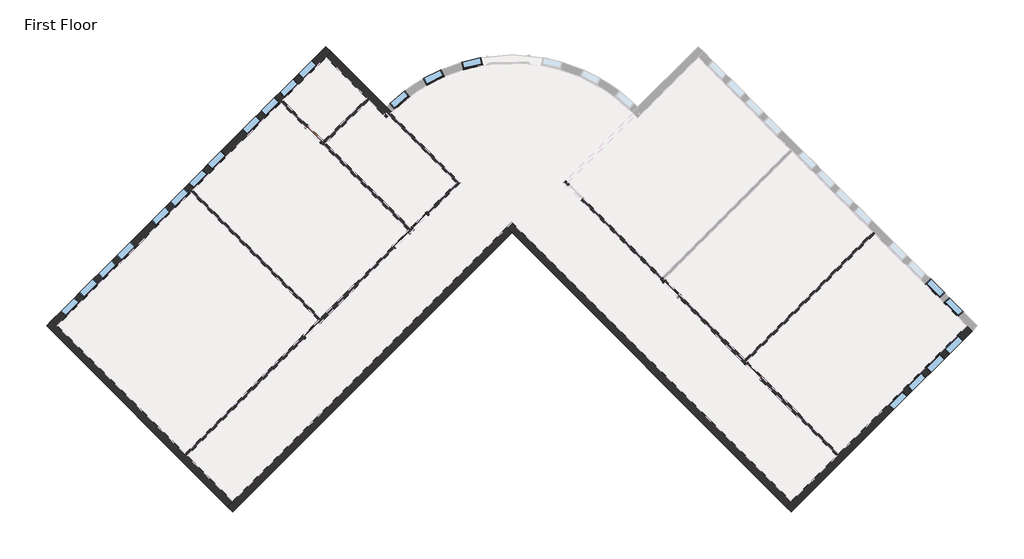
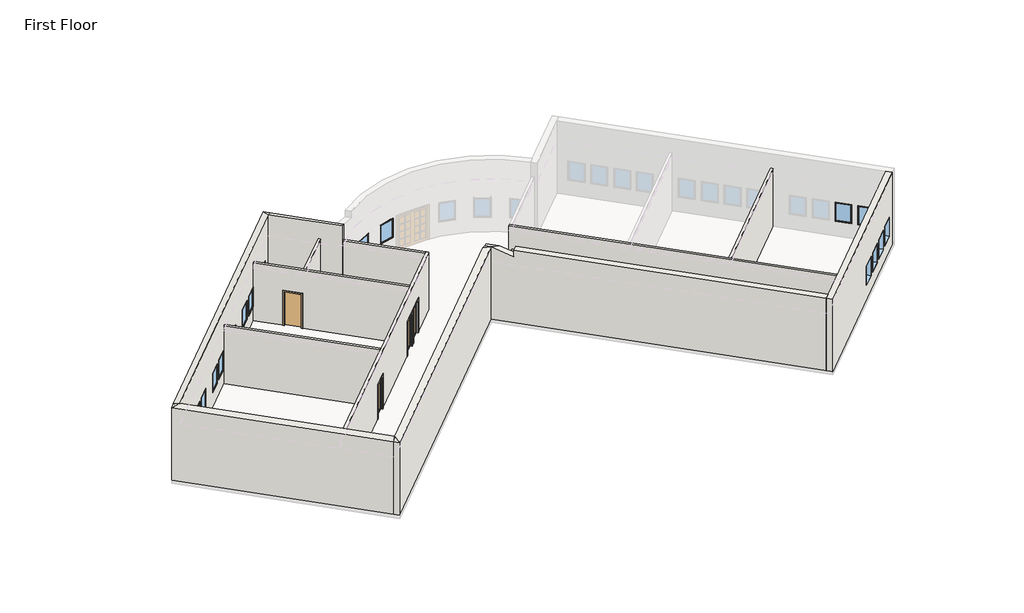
# One storey, part 1 of 2: 21 windows, 13 walls, 6 doors.
"""IFC4 building model written with IfcOpenShell, lengths in millimetres."""

from ifc_helpers import new_model, si_unit, point, frame, frame_2d, origin, origin_with_axes, place, context, project, spatial, polyline, circle_curve, ellipse_curve, trimmed, segment, composite_curve, outline, extrude, faceted_brep, transform, mapped, element, save
from ifc_brep_helpers import plane_surface, revolved_surface, advanced_brep
from components import m_single_flush_0915_x_2134mm_83e8e835, m_single_glass_1_0915_x_2134mm_fb3287b7, m_single_glass_1_0915_x_2134mm_4e5e1233, m_fixed_0915_x_1220mm_bde29121, m_fixed_0915_x_1220mm_2a2509e7

model = new_model("IFC4")

# Units and contexts
model_context = context("Model", 3, world=origin())
ifc_project = project(units=[si_unit("LENGTHUNIT", "METRE", prefix="MILLI")], contexts=[model_context])

# Site, building, storey
site = spatial("IfcSite", under=ifc_project)
building = spatial("IfcBuilding", under=site)
storey = spatial("IfcBuildingStorey", under=building, Name="First Floor", Elevation=0.0)

# Doors
placement = place(None, origin())
m_single_flush_0915_x_2134mm_shape = m_single_flush_0915_x_2134mm_83e8e835(model_context)
element("IfcDoor", 1, ObjectType="M_Single-Flush : 0915 x 2134mm", at=placement, inside=storey, context=model_context, shape_type="MappedRepresentation", body=[
    mapped(m_single_flush_0915_x_2134mm_shape, transform((-10762.6979297, 6563.7995594, 0.0), x_axis=(0.7071067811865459, -0.7071067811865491, 0.0), y_axis=(0.7071067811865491, 0.7071067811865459, 0.0), z_axis=(0.0, 0.0, 1.0))),
])
m_single_glass_1_0915_x_2134mm_shape = m_single_glass_1_0915_x_2134mm_fb3287b7(model_context)
element("IfcDoor", 2, ObjectType="M_Single-Glass 1 : 0915 x 2134mm", at=placement, inside=storey, context=model_context, shape_type="MappedRepresentation", body=[
    mapped(m_single_glass_1_0915_x_2134mm_shape, transform((-10885.2041795, -2483.8084826, 0.0), x_axis=(0.7071067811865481, 0.7071067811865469, 0.0), y_axis=(-0.7071067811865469, 0.7071067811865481, 0.0), z_axis=(0.0, 0.0, 1.0))),
])
element("IfcDoor", 3, ObjectType="M_Single-Glass 1 : 0915 x 2134mm", at=placement, inside=storey, context=model_context, shape_type="MappedRepresentation", body=[
    mapped(m_single_glass_1_0915_x_2134mm_shape, transform((-6731.4821701, 1669.9135268, 0.0), x_axis=(0.7071067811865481, 0.7071067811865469, 0.0), y_axis=(-0.7071067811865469, 0.7071067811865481, 0.0), z_axis=(0.0, 0.0, 1.0))),
])
m_single_glass_1_0915_x_2134mm_2_shape = m_single_glass_1_0915_x_2134mm_4e5e1233(model_context)
element("IfcDoor", 4, ObjectType="M_Single-Glass 1 : 0915 x 2134mm", at=placement, inside=storey, context=model_context, shape_type="MappedRepresentation", body=[
    mapped(m_single_glass_1_0915_x_2134mm_2_shape, transform((-5868.8118971, 2532.5837999, 0.0), x_axis=(-0.7071067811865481, -0.7071067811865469, 0.0), y_axis=(0.7071067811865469, -0.7071067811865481, 0.0), z_axis=(0.0, 0.0, 1.0))),
])
element("IfcDoor", 5, ObjectType="M_Single-Glass 1 : 0915 x 2134mm", at=placement, inside=storey, context=model_context, shape_type="MappedRepresentation", body=[
    mapped(m_single_glass_1_0915_x_2134mm_2_shape, transform((5790.8485946, -591.9442895, 0.0), x_axis=(-0.7071067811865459, 0.7071067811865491, 0.0), y_axis=(-0.7071067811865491, -0.7071067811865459, 0.0), z_axis=(0.0, 0.0, 1.0))),
])
element("IfcDoor", 6, ObjectType="M_Single-Glass 1 : 0915 x 2134mm", at=placement, inside=storey, context=model_context, shape_type="MappedRepresentation", body=[
    mapped(m_single_glass_1_0915_x_2134mm_2_shape, transform((9606.3967859, -4407.4924808, 0.0), x_axis=(-0.7071067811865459, 0.7071067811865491, 0.0), y_axis=(-0.7071067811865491, -0.7071067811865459, 0.0), z_axis=(0.0, 0.0, 1.0))),
])

# Walls
element("IfcWall", 7, ObjectType="Exterior - Brick on Mtl. Stud", at=placement, inside=storey, context=model_context, shape_type="Brep", body=[
    faceted_brep([(19456.3942478, -2315.870622, 0.0), (13534.5517321, -8237.7131378, 0.0), (13436.6174429, -8335.647427, 0.0), (11330.3231184, -10441.9417514, 0.0), (11082.835745, -10689.4291248, 0.0), (11082.835745, -10689.4291248, 4572.0), (11330.3231184, -10441.9417514, 4572.0), (19456.3942478, -2315.870622, 4572.0), (16455.7866219, -5316.478248, 915.0), (16455.7866219, -5316.478248, 2135.0), (15808.7839171, -5963.4809528, 2135.0), (15808.7839171, -5963.4809528, 915.0), (17317.7497881, -4454.5150817, 915.0), (17317.7497881, -4454.5150817, 2135.0), (16670.7470833, -5101.5177865, 2135.0), (16670.7470833, -5101.5177865, 915.0), (18179.7129544, -3592.5519155, 915.0), (18179.7129544, -3592.5519155, 2135.0), (17532.7102496, -4239.5546203, 2135.0), (17532.7102496, -4239.5546203, 915.0), (19041.6761207, -2730.5887492, 915.0), (19041.6761207, -2730.5887492, 2135.0), (18394.6734159, -3377.591454, 2135.0), (18394.6734159, -3377.591454, 915.0), (19703.8816212, -2563.3579955, 0.0), (19703.8816212, -2563.3579955, 4572.0), (11330.3231184, -10936.9164983, 4572.0), (11330.3231184, -10936.9164983, 0.0), (16703.2739953, -5563.9656214, 915.0), (16056.2712905, -6210.9683262, 915.0), (16056.2712905, -6210.9683262, 2135.0), (16703.2739953, -5563.9656214, 2135.0), (17565.2371615, -4702.0024552, 915.0), (16918.2344568, -5349.0051599, 915.0), (16918.2344568, -5349.0051599, 2135.0), (17565.2371615, -4702.0024552, 2135.0), (18427.2003278, -3840.0392889, 915.0), (17780.197623, -4487.0419937, 915.0), (17780.197623, -4487.0419937, 2135.0), (18427.2003278, -3840.0392889, 2135.0), (19289.1634941, -2978.0761226, 915.0), (18642.1607893, -3625.0788274, 915.0), (18642.1607893, -3625.0788274, 2135.0), (19289.1634941, -2978.0761226, 2135.0)], [[[0, 1, 2, 3, 4, 5, 6, 7], [8, 9, 10, 11], [12, 13, 14, 15], [16, 17, 18, 19], [20, 21, 22, 23]], [[24, 25, 26, 27], [28, 29, 30, 31], [32, 33, 34, 35], [36, 37, 38, 39], [40, 41, 42, 43]], [[4, 3, 2, 1, 0, 24, 27]], [[7, 6, 5, 26, 25]], [[0, 7, 25, 24]], [[5, 4, 27, 26]], [[9, 8, 28, 31]], [[10, 9, 31, 30]], [[11, 10, 30, 29]], [[8, 11, 29, 28]], [[13, 12, 32, 35]], [[14, 13, 35, 34]], [[15, 14, 34, 33]], [[12, 15, 33, 32]], [[17, 16, 36, 39]], [[18, 17, 39, 38]], [[19, 18, 38, 37]], [[16, 19, 37, 36]], [[21, 20, 40, 43]], [[22, 21, 43, 42]], [[23, 22, 42, 41]], [[20, 23, 41, 40]]]),
])
element("IfcWall", 8, ObjectType="Exterior - Brick on Mtl. Stud", at=placement, inside=storey, context=model_context, shape_type="Brep", body=[
    faceted_brep([(11330.3231184, -10441.9417514, 0.0), (-1601.2456959, 2489.6270629, 0.0), (-1601.2456959, 2489.6270629, 4455.1632764), (-1106.2709491, 1994.6523161, 4455.1632764), (-491.0880494, 1379.4694164, 4164.7405634), (-491.0880494, 1379.4694164, 4572.0), (11330.3231184, -10441.9417514, 4572.0), (11082.835745, -10689.4291248, 0.0), (11082.835745, -10689.4291248, 4572.0), (-738.5754229, 1131.982043, 4572.0), (-738.5754229, 1131.982043, 4164.7405634), (-1601.2456959, 1994.6523161, 4572.0), (-1848.7330693, 2242.1396895, 4572.0), (-1848.7330693, 2242.1396895, 0.0), (-1601.2456959, 1994.6523161, 0.0)], [[[0, 1, 2, 3, 4, 5, 6]], [[7, 8, 9, 10, 11, 12, 13, 14]], [[1, 0, 7, 14, 13]], [[0, 6, 8, 7]], [[2, 1, 13, 12]], [[6, 5, 9, 8]], [[9, 5, 4, 10]], [[4, 3, 11, 10]], [[3, 2, 12, 11]]]),
])
element("IfcWall", 9, ObjectType="Exterior - Brick on Mtl. Stud", at=placement, inside=storey, context=model_context, shape_type="Brep", body=[
    faceted_brep([(-1848.7330693, 2242.1396895, 0.0), (-14532.8145102, -10441.9417514, 0.0), (-14780.3018837, -10689.4291248, 0.0), (-14780.3018837, -10689.4291248, 4572.0), (-14532.8145102, -10441.9417514, 4688.8367236), (-2096.2204427, 1994.6523161, 4688.8367236), (-1848.7330693, 2242.1396895, 4572.0), (-1601.2456959, 1994.6523161, 0.0), (-1601.2456959, 1994.6523161, 4572.0), (-14532.8145102, -10936.9164983, 4572.0), (-14532.8145102, -10936.9164983, 0.0)], [[[0, 1, 2, 3, 4, 5, 6]], [[7, 8, 9, 10]], [[2, 1, 0, 7, 10]], [[0, 6, 8, 7]], [[3, 2, 10, 9]], [[6, 5, 8]], [[5, 4, 9, 8]], [[4, 3, 9]]]),
])
element("IfcWall", 10, ObjectType="Exterior - Brick on Mtl. Stud", at=placement, inside=storey, context=model_context, shape_type="Brep", body=[
    faceted_brep([(-14532.8145102, -10441.9417514, 0.0), (-16639.1088347, -8335.647427, 0.0), (-16737.0431239, -8237.7131378, 0.0), (-22658.8856396, -2315.870622, 0.0), (-22906.3730131, -2068.3832486, 0.0), (-22906.3730131, -2068.3832486, 4572.0), (-22658.8856396, -2315.870622, 4688.8367236), (-14532.8145102, -10441.9417514, 4688.8367236), (-14780.3018837, -10689.4291248, 0.0), (-14780.3018837, -10689.4291248, 4572.0), (-23153.8603865, -2315.870622, 4572.0), (-23153.8603865, -2315.870622, 0.0)], [[[0, 1, 2, 3, 4, 5, 6, 7]], [[8, 9, 10, 11]], [[0, 7, 9, 8]], [[5, 4, 11, 10]], [[7, 6, 10, 9]], [[6, 5, 10]], [[4, 3, 2, 1, 0, 8, 11]]]),
])
element("IfcWall", 11, ObjectType="Exterior - Brick on Mtl. Stud", at=placement, inside=storey, context=model_context, shape_type="Brep", body=[
    faceted_brep([(-22658.8856396, -2315.870622, 0.0), (-16473.6458479, 3869.3691697, 0.0), (-16375.7115587, 3967.3034589, 0.0), (-12319.9238385, 8023.0911791, 0.0), (-12221.9895493, 8121.0254683, 0.0), (-10222.2915721, 10120.7234455, 0.0), (-9974.8041987, 10368.2108189, 0.0), (-9974.8041987, 10368.2108189, 4572.0), (-10222.2915721, 10120.7234455, 4688.8367236), (-22658.8856396, -2315.870622, 4688.8367236), (-21597.1648077, -1254.1497901, 915.0), (-22244.1675125, -1901.1524949, 915.0), (-22244.1675125, -1901.1524949, 2135.0), (-21597.1648077, -1254.1497901, 2135.0), (-20735.2016414, -392.1866238, 915.0), (-21382.2043462, -1039.1893286, 915.0), (-21382.2043462, -1039.1893286, 2135.0), (-20735.2016414, -392.1866238, 2135.0), (-19011.2753089, 1331.7397087, 915.0), (-19658.2780137, 684.7370039, 915.0), (-19658.2780137, 684.7370039, 2135.0), (-19011.2753089, 1331.7397087, 2135.0), (-19873.2384752, 469.7765424, 915.0), (-20520.2411799, -177.2261623, 915.0), (-20520.2411799, -177.2261623, 2135.0), (-19873.2384752, 469.7765424, 2135.0), (-13838.0820977, 6504.9329199, 915.0), (-13838.0820977, 6504.9329199, 2135.0), (-13191.0793929, 7151.9356247, 2135.0), (-13191.0793929, 7151.9356247, 915.0), (-12976.1189315, 7366.8960861, 915.0), (-12976.1189315, 7366.8960861, 2135.0), (-12329.1162267, 8013.8987909, 2135.0), (-12329.1162267, 8013.8987909, 915.0), (-12114.1557652, 8228.8592524, 915.0), (-12114.1557652, 8228.8592524, 2135.0), (-11467.1530604, 8875.8619572, 2135.0), (-11467.1530604, 8875.8619572, 915.0), (-11252.1925989, 9090.8224187, 915.0), (-11252.1925989, 9090.8224187, 2135.0), (-10605.1898941, 9737.8251235, 2135.0), (-10605.1898941, 9737.8251235, 915.0), (-14808.2326015, 5534.7824161, 915.0), (-15455.2353063, 4887.7797113, 915.0), (-15455.2353063, 4887.7797113, 2135.0), (-14808.2326015, 5534.7824161, 2135.0), (-15670.1957678, 4672.8192498, 915.0), (-16317.1984726, 4025.816545, 915.0), (-16317.1984726, 4025.816545, 2135.0), (-15670.1957678, 4672.8192498, 2135.0), (-16532.1589341, 3810.8560836, 915.0), (-17179.1616388, 3163.8533788, 915.0), (-17179.1616388, 3163.8533788, 2135.0), (-16532.1589341, 3810.8560836, 2135.0), (-17394.1221003, 2948.8929173, 915.0), (-18041.1248051, 2301.8902125, 915.0), (-18041.1248051, 2301.8902125, 2135.0), (-17394.1221003, 2948.8929173, 2135.0), (-22906.3730131, -2068.3832486, 0.0), (-22906.3730131, -2068.3832486, 4572.0), (-10222.2915721, 10615.6981923, 4572.0), (-10222.2915721, 10615.6981923, 0.0), (-21844.6521811, -1006.6624167, 915.0), (-21844.6521811, -1006.6624167, 2135.0), (-22491.6548859, -1653.6651215, 2135.0), (-22491.6548859, -1653.6651215, 915.0), (-20982.6890148, -144.6992504, 915.0), (-20982.6890148, -144.6992504, 2135.0), (-21629.6917196, -791.7019552, 2135.0), (-21629.6917196, -791.7019552, 915.0), (-19258.7626823, 1579.2270821, 915.0), (-19258.7626823, 1579.2270821, 2135.0), (-19905.7653871, 932.2243773, 2135.0), (-19905.7653871, 932.2243773, 915.0), (-20120.7258486, 717.2639159, 915.0), (-20120.7258486, 717.2639159, 2135.0), (-20767.7285534, 70.2612111, 2135.0), (-20767.7285534, 70.2612111, 915.0), (-14085.5694711, 6752.4202933, 915.0), (-13438.5667664, 7399.4229981, 915.0), (-13438.5667664, 7399.4229981, 2135.0), (-14085.5694711, 6752.4202933, 2135.0), (-13223.6063049, 7614.3834596, 915.0), (-12576.6036001, 8261.3861643, 915.0), (-12576.6036001, 8261.3861643, 2135.0), (-13223.6063049, 7614.3834596, 2135.0), (-12361.6431386, 8476.3466258, 915.0), (-11714.6404338, 9123.3493306, 915.0), (-11714.6404338, 9123.3493306, 2135.0), (-12361.6431386, 8476.3466258, 2135.0), (-11499.6799723, 9338.3097921, 915.0), (-10852.6772676, 9985.3124969, 915.0), (-10852.6772676, 9985.3124969, 2135.0), (-11499.6799723, 9338.3097921, 2135.0), (-15055.7199749, 5782.2697895, 915.0), (-15055.7199749, 5782.2697895, 2135.0), (-15702.7226797, 5135.2670847, 2135.0), (-15702.7226797, 5135.2670847, 915.0), (-15917.6831412, 4920.3066232, 915.0), (-15917.6831412, 4920.3066232, 2135.0), (-16564.685846, 4273.3039184, 2135.0), (-16564.685846, 4273.3039184, 915.0), (-16779.6463075, 4058.343457, 915.0), (-16779.6463075, 4058.343457, 2135.0), (-17426.6490123, 3411.3407522, 2135.0), (-17426.6490123, 3411.3407522, 915.0), (-17641.6094737, 3196.3802907, 915.0), (-17641.6094737, 3196.3802907, 2135.0), (-18288.6121785, 2549.3775859, 2135.0), (-18288.6121785, 2549.3775859, 915.0)], [[[0, 1, 2, 3, 4, 5, 6, 7, 8, 9], [10, 11, 12, 13], [14, 15, 16, 17], [18, 19, 20, 21], [22, 23, 24, 25], [26, 27, 28, 29], [30, 31, 32, 33], [34, 35, 36, 37], [38, 39, 40, 41], [42, 43, 44, 45], [46, 47, 48, 49], [50, 51, 52, 53], [54, 55, 56, 57]], [[58, 59, 60, 61], [62, 63, 64, 65], [66, 67, 68, 69], [70, 71, 72, 73], [74, 75, 76, 77], [78, 79, 80, 81], [82, 83, 84, 85], [86, 87, 88, 89], [90, 91, 92, 93], [94, 95, 96, 97], [98, 99, 100, 101], [102, 103, 104, 105], [106, 107, 108, 109]], [[0, 9, 59, 58]], [[7, 6, 61, 60]], [[63, 62, 10, 13]], [[64, 63, 13, 12]], [[65, 64, 12, 11]], [[62, 65, 11, 10]], [[67, 66, 14, 17]], [[68, 67, 17, 16]], [[69, 68, 16, 15]], [[66, 69, 15, 14]], [[71, 70, 18, 21]], [[72, 71, 21, 20]], [[73, 72, 20, 19]], [[70, 73, 19, 18]], [[75, 74, 22, 25]], [[76, 75, 25, 24]], [[77, 76, 24, 23]], [[74, 77, 23, 22]], [[27, 26, 78, 81]], [[28, 27, 81, 80]], [[29, 28, 80, 79]], [[26, 29, 79, 78]], [[31, 30, 82, 85]], [[32, 31, 85, 84]], [[33, 32, 84, 83]], [[30, 33, 83, 82]], [[35, 34, 86, 89]], [[36, 35, 89, 88]], [[37, 36, 88, 87]], [[34, 37, 87, 86]], [[39, 38, 90, 93]], [[40, 39, 93, 92]], [[41, 40, 92, 91]], [[38, 41, 91, 90]], [[95, 94, 42, 45]], [[96, 95, 45, 44]], [[97, 96, 44, 43]], [[94, 97, 43, 42]], [[99, 98, 46, 49]], [[100, 99, 49, 48]], [[101, 100, 48, 47]], [[98, 101, 47, 46]], [[103, 102, 50, 53]], [[104, 103, 53, 52]], [[105, 104, 52, 51]], [[102, 105, 51, 50]], [[107, 106, 54, 57]], [[108, 107, 57, 56]], [[109, 108, 56, 55]], [[106, 109, 55, 54]], [[9, 8, 60, 59]], [[8, 7, 60]], [[6, 5, 4, 3, 2, 1, 0, 58, 61]]]),
])
element("IfcWall", 12, ObjectType="Exterior - Brick on Mtl. Stud", at=placement, inside=storey, context=model_context, shape_type="AdvancedBrep", body=[
    advanced_brep(
    [(-10222.2915721, 10120.7234455, 0.0), (-8331.6648159, 8230.0966893, 0.0), (-8233.7305267, 8132.1624001, 0.0), (-7415.2355619, 7313.6674352, 0.0), (-7415.2355619, 7313.6674352, 4688.8367236), (-10222.2915721, 10120.7234455, 4688.8367236), (-9974.8041987, 10368.2108189, 0.0), (-9974.8041987, 10368.2108189, 4572.0), (-7420.7345051, 7814.1411252, 4572.0), (-7173.2471317, 7566.6537518, 4572.0), (-7173.2471317, 7566.6537518, 0.0), (-7420.7345051, 7814.1411252, 0.0), (-7312.3566207, 7423.9811885, 0.0), (-7216.038281, 7523.5314273, 0.0)],
    [
        (0, 1),
        (1, 2),
        (2, 3),
        (3, 4),
        (4, 5),
        (5, 0),
        (6, 7),
        (7, 8),
        (8, 9),
        (9, 10),
        (10, 11),
        (11, 6),
        (5, 7),
        (6, 0),
        (3, 12, circle_curve(frame((-1601.2456959, 1994.6523161, 0.0), z_axis=(0.0, 0.0, -1.0), x_axis=(1.0, 0.0, 0.0)), 7880.0)),
        (12, 13, circle_curve(frame((-1601.2456959, 1994.6523161, 0.0), z_axis=(0.0, 0.0, -1.0), x_axis=(1.0, 0.0, 0.0)), 7880.0)),
        (13, 10, circle_curve(frame((-1601.2456959, 1994.6523161, 0.0), z_axis=(0.0, 0.0, -1.0), x_axis=(1.0, 0.0, 0.0)), 7880.0)),
        (9, 4, ellipse_curve(frame((-1601.2456959, 1994.6523161, 4572.0), z_axis=(0.22390007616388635, 0.2239000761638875, 0.9485449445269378), x_axis=(0.6707225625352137, 0.6707225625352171, -0.3166425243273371)), 8307.4608594, 7880.0)),
    ],
    [
        plane_surface(frame((-10469.7789456, 10368.2108189, 0.0), z_axis=(-0.7071067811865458, -0.7071067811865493, 0.0), x_axis=(0.7071067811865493, -0.7071067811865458, 0.0))),
        plane_surface(frame((-10222.2915721, 10615.6981923, 0.0), z_axis=(0.7071067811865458, 0.7071067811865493, 0.0), x_axis=(-0.7071067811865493, 0.7071067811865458, 0.0))),
        plane_surface(frame((-22906.3730131, -2563.3579955, 0.0), z_axis=(-0.7071067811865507, 0.7071067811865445, 0.0), x_axis=(0.7071067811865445, 0.7071067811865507, 0.0))),
        revolved_surface(polyline([(6278.7543041, 1994.6523161, 0.0), (6278.7543041, 1994.6523161, 7202.495377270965)]), (-1601.2456959, 1994.6523161, 0.0), (0.0, 0.0, -1.0)),
        plane_surface(frame((124.0948502, 1994.6523161, 4164.7405634), z_axis=(0.22390007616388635, 0.2239000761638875, 0.9485449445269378), x_axis=(-0.7071067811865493, 0.7071067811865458, 0.0))),
        plane_surface(frame((-10098.5478854, 10491.9545056, 0.0), z_axis=(0.0, 0.0, -1.0000000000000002), x_axis=(-0.7071067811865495, 0.7071067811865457, 0.0))),
    ],
    [
        (0, [[1, 2, 3, 4, 5, 6]]),
        (1, [[7, 8, 9, 10, 11, 12]]),
        (2, [[-6, 13, -7, 14]]),
        (3, [[15, 16, 17, -10, 18, -4]]),
        (4, [[-5, -18, -9, -8, -13]]),
        (5, [[-3, -2, -1, -14, -12, -11, -17, -16, -15]]),
    ],
),
])
element("IfcWall", 13, ObjectType="Interior - 138mm Partition (1-hr)", at=placement, inside=storey, context=model_context, shape_type="Brep", body=[
    faceted_brep([(-6359.0136731, 1944.4477346, 0.0), (-6143.3461049, 2160.1153029, 0.0), (-6143.3461049, 2160.1153029, 2134.0), (-5496.3434001, 2807.1180077, 2134.0), (-5496.3434001, 2807.1180077, 0.0), (-3997.9841307, 4305.477277, 0.0), (-3997.9841307, 4305.477277, 3658.0), (-16639.1088347, -8335.647427, 3658.0), (-16639.1088347, -8335.647427, 0.0), (-11159.7383873, -2856.2769796, 0.0), (-11159.7383873, -2856.2769796, 2134.0), (-10512.7356825, -2209.2742748, 2134.0), (-10512.7356825, -2209.2742748, 0.0), (-7006.0163779, 1297.4450298, 0.0), (-7006.0163779, 1297.4450298, 2134.0), (-6359.0136731, 1944.4477346, 2134.0), (-6241.2803941, 2258.0495921, 2134.0), (-6241.2803941, 2258.0495921, 0.0), (-6300.1470336, 2199.1829525, 0.0), (-6398.0813228, 2101.2486633, 0.0), (-6456.9479623, 2042.3820238, 0.0), (-6456.9479623, 2042.3820238, 2134.0), (-7103.9506671, 1395.379319, 2134.0), (-7103.9506671, 1395.379319, 0.0), (-10453.869043, -1954.5390569, 0.0), (-10551.8033322, -2052.473346, 0.0), (-10610.6699717, -2111.3399856, 0.0), (-10610.6699717, -2111.3399856, 2134.0), (-11257.6726765, -2758.3426904, 2134.0), (-11257.6726765, -2758.3426904, 0.0), (-16737.0431239, -8237.7131378, 0.0), (-16737.0431239, -8237.7131378, 3658.0), (-10551.8033322, -2052.473346, 3658.0), (-10453.869043, -1954.5390569, 3658.0), (-6398.0813228, 2101.2486633, 3658.0), (-6300.1470336, 2199.1829525, 3658.0), (-4193.8527091, 4305.477277, 3658.0), (-4095.9184199, 4403.4115662, 3658.0), (-4095.9184199, 4403.4115662, 0.0), (-4193.8527091, 4305.477277, 0.0), (-5594.2776893, 2905.0522969, 0.0), (-5594.2776893, 2905.0522969, 2134.0)], [[[0, 1, 2, 3, 4, 5, 6, 7, 8, 9, 10, 11, 12, 13, 14, 15]], [[16, 17, 18, 19, 20, 21, 22, 23, 24, 25, 26, 27, 28, 29, 30, 31, 32, 33, 34, 35, 36, 37, 38, 39, 40, 41]], [[9, 8, 30, 29]], [[13, 12, 26, 25, 24, 23]], [[40, 39, 38, 5, 4]], [[20, 19, 18, 17, 1, 0]], [[7, 6, 37, 36, 35, 34, 33, 32, 31]], [[8, 7, 31, 30]], [[6, 5, 38, 37]], [[27, 26, 12, 11]], [[28, 27, 11, 10]], [[29, 28, 10, 9]], [[21, 20, 0, 15]], [[22, 21, 15, 14]], [[23, 22, 14, 13]], [[2, 1, 17, 16]], [[3, 2, 16, 41]], [[4, 3, 41, 40]]]),
])
element("IfcWall", 14, ObjectType="Interior - 138mm Partition (1-hr)", at=placement, inside=storey, context=model_context, shape_type="SweptSolid", body=[
    extrude(outline(composite_curve([segment(polyline([(-7216.038281, 7523.5314273), (-4095.9184199, 4403.4115662), (-4193.8527091, 4305.477277), (-7312.3566207, 7423.9811885)]), True, "CONTINUOUS"), segment(trimmed(circle_curve(frame_2d((-1601.2456959, 1994.6523161)), 7880.0), [point((-7312.3566207, 7423.9811885))], [point((-7216.038281, 7523.5314273))], False, "CARTESIAN"), True, "CONTINUOUS")], self_intersect=False)), origin_with_axes(), (0.0, 0.0, 1.0), 3658.0),
])
element("IfcWall", 15, ObjectType="Interior - 138mm Partition (1-hr)", at=placement, inside=storey, context=model_context, shape_type="Brep", body=[
    faceted_brep([(-6300.1470336, 2199.1829525, 0.0), (-10233.4285039, 6132.4644229, 0.0), (-10331.3627931, 6230.3987121, 0.0), (-10390.2294327, 6289.2653516, 0.0), (-10390.2294327, 6289.2653516, 2134.0), (-11037.2321375, 6936.2680564, 2134.0), (-11037.2321375, 6936.2680564, 0.0), (-12221.9895493, 8121.0254683, 0.0), (-12221.9895493, 8121.0254683, 3658.0), (-10331.3627931, 6230.3987121, 3658.0), (-10233.4285039, 6132.4644229, 3658.0), (-6300.1470336, 2199.1829525, 3658.0), (-10488.1637219, 6191.3310624, 2134.0), (-10488.1637219, 6191.3310624, 0.0), (-6398.0813228, 2101.2486633, 0.0), (-6398.0813228, 2101.2486633, 3658.0), (-12319.9238385, 8023.0911791, 3658.0), (-12319.9238385, 8023.0911791, 0.0), (-11135.1664266, 6838.3337672, 0.0), (-11135.1664266, 6838.3337672, 2134.0)], [[[0, 1, 2, 3, 4, 5, 6, 7, 8, 9, 10, 11]], [[12, 13, 14, 15, 16, 17, 18, 19]], [[18, 17, 7, 6]], [[14, 13, 3, 2, 1, 0]], [[11, 10, 9, 8, 16, 15]], [[8, 7, 17, 16]], [[0, 11, 15, 14]], [[4, 3, 13, 12]], [[5, 4, 12, 19]], [[6, 5, 19, 18]]]),
])
element("IfcWall", 16, ObjectType="Interior - 138mm Partition (1-hr)", at=placement, inside=storey, context=model_context, shape_type="SweptSolid", body=[
    extrude(outline(polyline([(-8233.7305267, 8132.1624001), (-10233.4285039, 6132.4644229), (-10331.3627931, 6230.3987121), (-8331.6648159, 8230.0966893), (-8233.7305267, 8132.1624001)])), origin_with_axes(), (0.0, 0.0, 1.0), 3658.0),
])
element("IfcWall", 17, ObjectType="Interior - 138mm Partition (1-hr)", at=placement, inside=storey, context=model_context, shape_type="SweptSolid", body=[
    extrude(outline(polyline([(-16375.7115587, 3967.3034589), (-10453.869043, -1954.5390569), (-10551.8033322, -2052.473346), (-16473.6458479, 3869.3691697), (-16375.7115587, 3967.3034589)])), origin_with_axes(), (0.0, 0.0, 1.0), 3658.0),
])
element("IfcWall", 18, ObjectType="Interior - 138mm Partition (1-hr)", at=placement, inside=storey, context=model_context, shape_type="Brep", body=[
    faceted_brep([(9331.8625781, -4035.0239838, 2134.0), (9331.8625781, -4035.0239838, 0.0), (9272.9959386, -3976.1573443, 0.0), (9175.0616494, -3878.2230551, 0.0), (6163.3170916, -866.4784973, 0.0), (6163.3170916, -866.4784973, 2134.0), (5516.3143868, -219.4757925, 2134.0), (5516.3143868, -219.4757925, 0.0), (5457.4477473, -160.609153, 0.0), (5359.5134581, -62.6748638, 0.0), (1697.2306616, 3599.6079327, 0.0), (1697.2306616, 3599.6079327, 2134.0), (1050.2279568, 4246.6106375, 2134.0), (1050.2279568, 4246.6106375, 0.0), (991.3613173, 4305.477277, 0.0), (893.4270281, 4403.4115662, 0.0), (893.4270281, 4403.4115662, 3658.0), (991.3613173, 4305.477277, 3658.0), (5359.5134581, -62.6748638, 3658.0), (5457.4477473, -160.609153, 3658.0), (9175.0616494, -3878.2230551, 3658.0), (9272.9959386, -3976.1573443, 3658.0), (13534.5517321, -8237.7131378, 3658.0), (13534.5517321, -8237.7131378, 0.0), (9978.8652829, -4682.0266886, 0.0), (9978.8652829, -4682.0266886, 2134.0), (6065.3828024, -964.4127865, 0.0), (9233.9282889, -4132.958273, 0.0), (9233.9282889, -4132.958273, 2134.0), (9880.9309937, -4779.9609778, 2134.0), (9880.9309937, -4779.9609778, 0.0), (13436.6174429, -8335.647427, 0.0), (13436.6174429, -8335.647427, 3658.0), (795.4927389, 4305.477277, 3658.0), (795.4927389, 4305.477277, 0.0), (952.2936677, 4148.6763483, 0.0), (952.2936677, 4148.6763483, 2134.0), (1599.2963724, 3501.6736435, 2134.0), (1599.2963724, 3501.6736435, 0.0), (5418.3800976, -317.4100817, 0.0), (5418.3800976, -317.4100817, 2134.0), (6065.3828024, -964.4127865, 2134.0)], [[[0, 1, 2, 3, 4, 5, 6, 7, 8, 9, 10, 11, 12, 13, 14, 15, 16, 17, 18, 19, 20, 21, 22, 23, 24, 25]], [[26, 27, 28, 29, 30, 31, 32, 33, 34, 35, 36, 37, 38, 39, 40, 41]], [[15, 14, 13, 35, 34]], [[10, 9, 8, 7, 39, 38]], [[24, 23, 31, 30]], [[4, 3, 2, 1, 27, 26]], [[22, 21, 20, 19, 18, 17, 16, 33, 32]], [[23, 22, 32, 31]], [[16, 15, 34, 33]], [[36, 35, 13, 12]], [[37, 36, 12, 11]], [[38, 37, 11, 10]], [[40, 39, 7, 6]], [[41, 40, 6, 5]], [[26, 41, 5, 4]], [[28, 27, 1, 0]], [[29, 28, 0, 25]], [[30, 29, 25, 24]]]),
])
element("IfcWall", 19, ObjectType="Interior - 138mm Partition (1-hr)", at=placement, inside=storey, context=model_context, shape_type="SweptSolid", body=[
    extrude(outline(polyline([(15194.8384543, 1945.6851715), (9272.9959386, -3976.1573443), (9175.0616494, -3878.2230551), (15096.9041651, 2043.6194607), (15194.8384543, 1945.6851715)])), origin_with_axes(), (0.0, 0.0, 1.0), 3658.0),
])

# Windows
m_fixed_0915_x_1220mm_shape = m_fixed_0915_x_1220mm_bde29121(model_context)
element("IfcWindow", 20, ObjectType="M_Fixed : 0915 x 1220mm", at=placement, inside=storey, context=model_context, shape_type="MappedRepresentation", body=[
    mapped(m_fixed_0915_x_1220mm_shape, transform((-22053.6022349, -1444.7150676, 0.0), x_axis=(-0.7071067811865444, -0.7071067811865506, 0.0), y_axis=(0.7071067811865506, -0.7071067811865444, 0.0), z_axis=(0.0, 0.0, 1.0))),
])
element("IfcWindow", 21, ObjectType="M_Fixed : 0915 x 1220mm", at=placement, inside=storey, context=model_context, shape_type="MappedRepresentation", body=[
    mapped(m_fixed_0915_x_1220mm_shape, transform((-6805.4026025, 8143.1636668, 0.0), x_axis=(-0.7632901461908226, -0.6460558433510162, 0.0), y_axis=(0.6460558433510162, -0.7632901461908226, 0.0), z_axis=(0.0, 0.0, 1.0))),
])
element("IfcWindow", 22, ObjectType="M_Fixed : 0915 x 1220mm", at=placement, inside=storey, context=model_context, shape_type="MappedRepresentation", body=[
    mapped(m_fixed_0915_x_1220mm_shape, transform((18851.1108431, -1444.7150676, 0.0), x_axis=(-0.7071067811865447, 0.7071067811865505, 0.0), y_axis=(-0.7071067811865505, -0.7071067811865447, 0.0), z_axis=(0.0, 0.0, 1.0))),
])
element("IfcWindow", 23, ObjectType="M_Fixed : 0915 x 1220mm", at=placement, inside=storey, context=model_context, shape_type="MappedRepresentation", body=[
    mapped(m_fixed_0915_x_1220mm_shape, transform((-3446.8177118, 9835.6538384, 0.0), x_axis=(-0.9733997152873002, -0.22911349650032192, 0.0), y_axis=(0.22911349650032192, -0.9733997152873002, 0.0), z_axis=(0.0, 0.0, 1.0))),
])
element("IfcWindow", 24, ObjectType="M_Fixed : 0915 x 1220mm", at=placement, inside=storey, context=model_context, shape_type="MappedRepresentation", body=[
    mapped(m_fixed_0915_x_1220mm_shape, transform((-5226.2698635, 9188.1661114, 0.0), x_axis=(-0.8930191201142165, -0.45001872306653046, 0.0), y_axis=(0.45001872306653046, -0.8930191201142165, 0.0), z_axis=(0.0, 0.0, 1.0))),
])
element("IfcWindow", 25, ObjectType="M_Fixed : 0915 x 1220mm", at=placement, inside=storey, context=model_context, shape_type="MappedRepresentation", body=[
    mapped(m_fixed_0915_x_1220mm_shape, transform((17989.1476769, -582.7519014, 0.0), x_axis=(-0.7071067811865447, 0.7071067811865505, 0.0), y_axis=(-0.7071067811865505, -0.7071067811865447, 0.0), z_axis=(0.0, 0.0, 1.0))),
])
element("IfcWindow", 26, ObjectType="M_Fixed : 0915 x 1220mm", at=placement, inside=storey, context=model_context, shape_type="MappedRepresentation", body=[
    mapped(m_fixed_0915_x_1220mm_shape, transform((-21191.6390687, -582.7519014, 0.0), x_axis=(-0.7071067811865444, -0.7071067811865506, 0.0), y_axis=(0.7071067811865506, -0.7071067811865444, 0.0), z_axis=(0.0, 0.0, 1.0))),
])
element("IfcWindow", 27, ObjectType="M_Fixed : 0915 x 1220mm", at=placement, inside=storey, context=model_context, shape_type="MappedRepresentation", body=[
    mapped(m_fixed_0915_x_1220mm_shape, transform((-20329.6759024, 279.2112649, 0.0), x_axis=(-0.7071067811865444, -0.7071067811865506, 0.0), y_axis=(0.7071067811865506, -0.7071067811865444, 0.0), z_axis=(0.0, 0.0, 1.0))),
])
element("IfcWindow", 28, ObjectType="M_Fixed : 0915 x 1220mm", at=placement, inside=storey, context=model_context, shape_type="MappedRepresentation", body=[
    mapped(m_fixed_0915_x_1220mm_shape, transform((-19467.7127362, 1141.1744312, 0.0), x_axis=(-0.7071067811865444, -0.7071067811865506, 0.0), y_axis=(0.7071067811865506, -0.7071067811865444, 0.0), z_axis=(0.0, 0.0, 1.0))),
])
element("IfcWindow", 29, ObjectType="M_Fixed : 0915 x 1220mm", at=placement, inside=storey, context=model_context, shape_type="MappedRepresentation", body=[
    mapped(m_fixed_0915_x_1220mm_shape, transform((-17850.5595276, 2758.3276398, 0.0), x_axis=(-0.7071067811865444, -0.7071067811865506, 0.0), y_axis=(0.7071067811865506, -0.7071067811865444, 0.0), z_axis=(0.0, 0.0, 1.0))),
])
element("IfcWindow", 30, ObjectType="M_Fixed : 0915 x 1220mm", at=placement, inside=storey, context=model_context, shape_type="MappedRepresentation", body=[
    mapped(m_fixed_0915_x_1220mm_shape, transform((-16988.5963613, 3620.290806, 0.0), x_axis=(-0.7071067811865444, -0.7071067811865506, 0.0), y_axis=(0.7071067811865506, -0.7071067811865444, 0.0), z_axis=(0.0, 0.0, 1.0))),
])
element("IfcWindow", 31, ObjectType="M_Fixed : 0915 x 1220mm", at=placement, inside=storey, context=model_context, shape_type="MappedRepresentation", body=[
    mapped(m_fixed_0915_x_1220mm_shape, transform((-16126.633195, 4482.2539723, 0.0), x_axis=(-0.7071067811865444, -0.7071067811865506, 0.0), y_axis=(0.7071067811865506, -0.7071067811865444, 0.0), z_axis=(0.0, 0.0, 1.0))),
])
element("IfcWindow", 32, ObjectType="M_Fixed : 0915 x 1220mm", at=placement, inside=storey, context=model_context, shape_type="MappedRepresentation", body=[
    mapped(m_fixed_0915_x_1220mm_shape, transform((-15264.6700288, 5344.2171386, 0.0), x_axis=(-0.7071067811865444, -0.7071067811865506, 0.0), y_axis=(0.7071067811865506, -0.7071067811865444, 0.0), z_axis=(0.0, 0.0, 1.0))),
])
m_fixed_0915_x_1220mm_2_shape = m_fixed_0915_x_1220mm_2a2509e7(model_context)
element("IfcWindow", 33, ObjectType="M_Fixed : 0915 x 1220mm", at=placement, inside=storey, context=model_context, shape_type="MappedRepresentation", body=[
    mapped(m_fixed_0915_x_1220mm_2_shape, transform((18851.1108431, -3187.0261765, 0.0), x_axis=(-0.7071067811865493, -0.7071067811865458, 0.0), y_axis=(0.7071067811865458, -0.7071067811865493, 0.0), z_axis=(0.0, 0.0, 1.0))),
])
element("IfcWindow", 34, ObjectType="M_Fixed : 0915 x 1220mm", at=placement, inside=storey, context=model_context, shape_type="MappedRepresentation", body=[
    mapped(m_fixed_0915_x_1220mm_2_shape, transform((17989.1476769, -4048.9893427, 0.0), x_axis=(-0.7071067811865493, -0.7071067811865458, 0.0), y_axis=(0.7071067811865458, -0.7071067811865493, 0.0), z_axis=(0.0, 0.0, 1.0))),
])
element("IfcWindow", 35, ObjectType="M_Fixed : 0915 x 1220mm", at=placement, inside=storey, context=model_context, shape_type="MappedRepresentation", body=[
    mapped(m_fixed_0915_x_1220mm_2_shape, transform((17127.1845106, -4910.952509, 0.0), x_axis=(-0.7071067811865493, -0.7071067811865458, 0.0), y_axis=(0.7071067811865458, -0.7071067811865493, 0.0), z_axis=(0.0, 0.0, 1.0))),
])
element("IfcWindow", 36, ObjectType="M_Fixed : 0915 x 1220mm", at=placement, inside=storey, context=model_context, shape_type="MappedRepresentation", body=[
    mapped(m_fixed_0915_x_1220mm_2_shape, transform((16265.2213443, -5772.9156753, 0.0), x_axis=(-0.7071067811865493, -0.7071067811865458, 0.0), y_axis=(0.7071067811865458, -0.7071067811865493, 0.0), z_axis=(0.0, 0.0, 1.0))),
])
element("IfcWindow", 37, ObjectType="M_Fixed : 0915 x 1220mm", at=placement, inside=storey, context=model_context, shape_type="MappedRepresentation", body=[
    mapped(m_fixed_0915_x_1220mm_2_shape, transform((-11061.6273214, 9547.2598459, 0.0), x_axis=(0.7071067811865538, 0.7071067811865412, 0.0), y_axis=(-0.7071067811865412, 0.7071067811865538, 0.0), z_axis=(0.0, 0.0, 1.0))),
])
element("IfcWindow", 38, ObjectType="M_Fixed : 0915 x 1220mm", at=placement, inside=storey, context=model_context, shape_type="MappedRepresentation", body=[
    mapped(m_fixed_0915_x_1220mm_2_shape, transform((-11923.5904877, 8685.2966797, 0.0), x_axis=(0.7071067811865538, 0.7071067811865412, 0.0), y_axis=(-0.7071067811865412, 0.7071067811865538, 0.0), z_axis=(0.0, 0.0, 1.0))),
])
element("IfcWindow", 39, ObjectType="M_Fixed : 0915 x 1220mm", at=placement, inside=storey, context=model_context, shape_type="MappedRepresentation", body=[
    mapped(m_fixed_0915_x_1220mm_2_shape, transform((-12785.5536539, 7823.3335134, 0.0), x_axis=(0.7071067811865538, 0.7071067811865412, 0.0), y_axis=(-0.7071067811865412, 0.7071067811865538, 0.0), z_axis=(0.0, 0.0, 1.0))),
])
element("IfcWindow", 40, ObjectType="M_Fixed : 0915 x 1220mm", at=placement, inside=storey, context=model_context, shape_type="MappedRepresentation", body=[
    mapped(m_fixed_0915_x_1220mm_2_shape, transform((-13647.5168202, 6961.3703471, 0.0), x_axis=(0.7071067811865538, 0.7071067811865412, 0.0), y_axis=(-0.7071067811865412, 0.7071067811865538, 0.0), z_axis=(0.0, 0.0, 1.0))),
])

save(model, "model.ifc")
